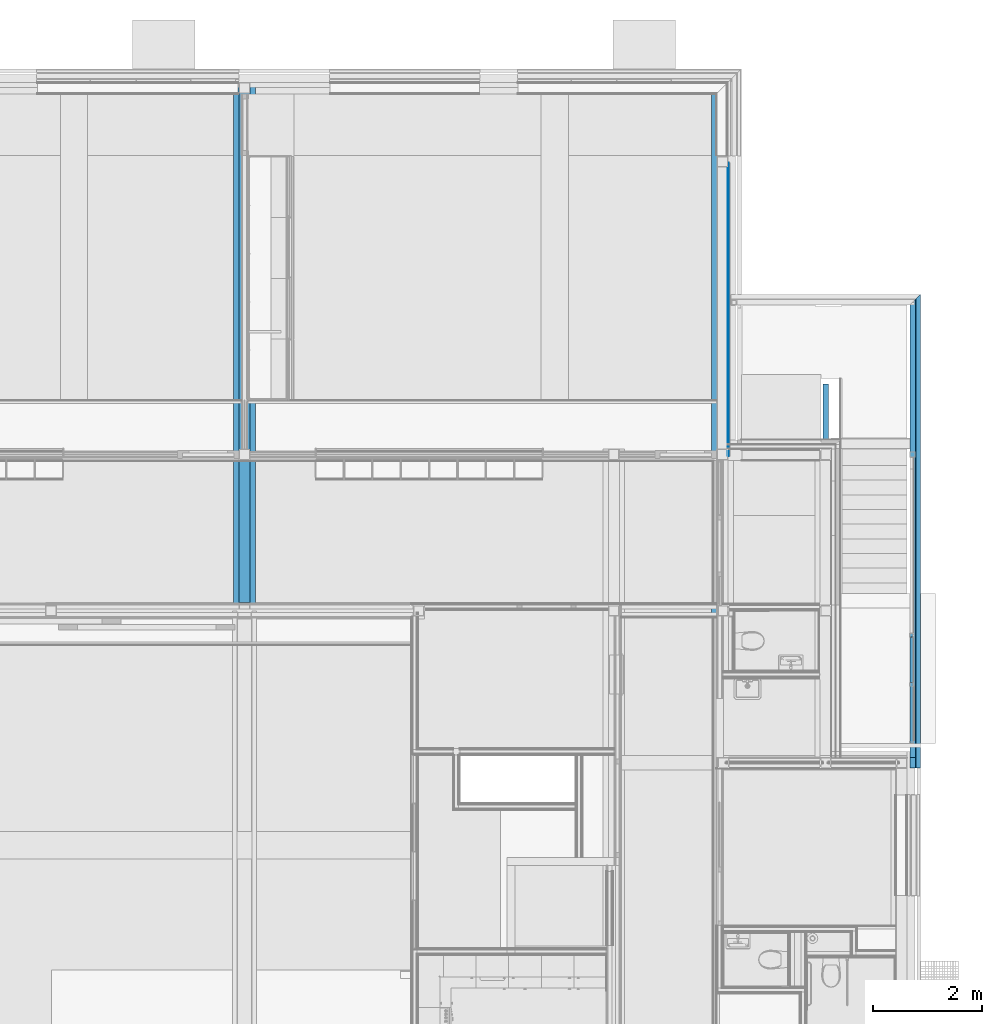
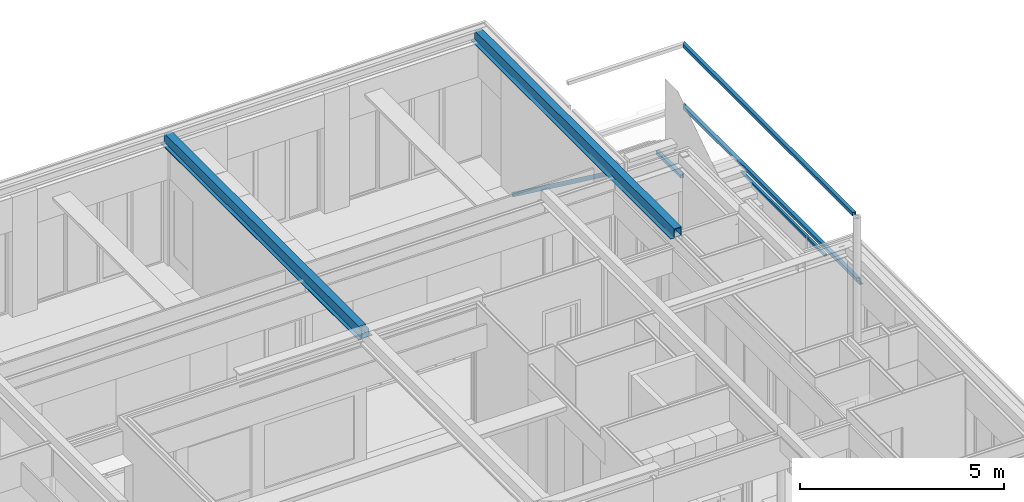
# One storey, part 15 of 165: 8 beams.
"""IFC2X3 building model written with IfcOpenShell, lengths in millimetres."""

from ifc_helpers import new_model, entity, si_unit, converted_unit, derived_unit, money_unit, direction, frame, origin_with_axes, place, context, subcontext, project, spatial, faceted_brep, material, type_object, element, save


model = new_model("IFC2X3")

# Units and contexts
model_context = context("Model", 3, precision=0.01, world=origin_with_axes(), true_north=direction((0.0, 1.0)))
body_context = subcontext(model_context, "Body", "Model", "MODEL_VIEW")
ifc_project = project(units=[si_unit("LENGTHUNIT", "METRE", prefix="MILLI"), si_unit("AREAUNIT", "SQUARE_METRE"), si_unit("VOLUMEUNIT", "CUBIC_METRE"), converted_unit("PLANEANGLEUNIT", "DEGREE", entity("IfcPlaneAngleMeasure", 0.0174532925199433), si_unit("PLANEANGLEUNIT", "RADIAN"), dimensions=[0, 0, 0, 0, 0, 0, 0]), money_unit("EUR"), converted_unit("TIMEUNIT", "Year", entity("IfcTimeMeasure", 31556926.0), si_unit("TIMEUNIT", "SECOND"), dimensions=[0, 0, 1, 0, 0, 0, 0]), si_unit("MASSUNIT", "GRAM", prefix="KILO"), si_unit("THERMODYNAMICTEMPERATUREUNIT", "DEGREE_CELSIUS"), si_unit("LUMINOUSINTENSITYUNIT", "LUMEN"), si_unit("ENERGYUNIT", "JOULE", prefix="MEGA"), derived_unit("THERMALCONDUCTANCEUNIT", [(si_unit("POWERUNIT", "WATT"), 1), (si_unit("LENGTHUNIT", "METRE"), -1), (si_unit("THERMODYNAMICTEMPERATUREUNIT", "KELVIN"), -1)]), derived_unit("SPECIFICHEATCAPACITYUNIT", [(si_unit("ENERGYUNIT", "JOULE"), 1), (si_unit("MASSUNIT", "GRAM", prefix="KILO"), -1), (si_unit("THERMODYNAMICTEMPERATUREUNIT", "KELVIN"), -1)]), derived_unit("MASSDENSITYUNIT", [(si_unit("MASSUNIT", "GRAM", prefix="KILO"), 1), (si_unit("VOLUMEUNIT", "CUBIC_METRE"), -1)])], contexts=[model_context])

# Site, building, storey
site_placement = place(None, origin_with_axes())
site = spatial("IfcSite", under=ifc_project, at=site_placement, Name="Site", CompositionType="ELEMENT")
building_placement = place(site_placement, origin_with_axes())
building = spatial("IfcBuilding", under=site, at=building_placement, Name="Naam gebouw", CompositionType="ELEMENT")
storey_placement = place(building_placement, origin_with_axes())
storey = spatial("IfcBuildingStorey", under=building, at=storey_placement, Name="Begane grond", CompositionType="ELEMENT", Elevation=0.0)

# Beams
ifc_material = material(Name="Metaal - Staal C")
beam_type_1 = type_object("IfcBeamType", Name="28 THQ enkele flens 01 315 x 277", PredefinedType="BEAM")
beam_1_placement = place(storey_placement, frame((26500.0, 29175.0, 3860.0), z_axis=(0.0, 0.0, 1.0), x_axis=(-1.0, 0.0, 0.0)))
element("IfcBeam", 1, at=beam_1_placement, inside=storey, type_object=beam_type_1, material=ifc_material, Name="h METAAL_Regenwaterafvoer-x", ObjectType="BEAM", context=body_context, shape_type="Brep", body=[
    faceted_brep([(-89.99999999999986, 6940.000152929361, -277.0000000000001), (89.99999999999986, 6940.000152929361, -277.0000000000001), (89.99999999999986, 6760.000152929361, -277.0000000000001), (-89.99999999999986, 6760.000152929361, -277.0000000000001), (-89.99999999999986, 6940.000152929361, -265.0000000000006), (89.99999999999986, 6940.000152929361, -265.0000000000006), (89.99999999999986, 6760.000152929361, -265.0000000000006), (-89.99999999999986, 6760.000152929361, -265.0000000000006)], [[[0, 1, 2, 3]], [[0, 4, 5, 1]], [[1, 5, 6, 2]], [[2, 6, 7, 3]], [[3, 7, 4, 0]], [[6, 5, 4, 7]]]),
    faceted_brep([(-90.00000195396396, 1550.000000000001, -277.0000000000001), (89.99999804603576, 1550.000000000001, -277.0000000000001), (89.99999804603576, 1370.000000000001, -277.0000000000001), (-90.00000195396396, 1370.000000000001, -277.0000000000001), (-90.00000195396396, 1550.000000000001, -265.0000000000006), (89.99999804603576, 1550.000000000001, -265.0000000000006), (89.99999804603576, 1370.000000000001, -265.0000000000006), (-90.00000195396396, 1370.000000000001, -265.0000000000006)], [[[0, 1, 2, 3]], [[0, 4, 5, 1]], [[1, 5, 6, 2]], [[2, 6, 7, 3]], [[3, 7, 4, 0]], [[6, 5, 4, 7]]]),
    faceted_brep([(-94.99999999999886, 1360.0, -260.0000000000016), (-94.99999999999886, 1560.000000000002, -260.0000000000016), (-94.99999999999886, 1560.000000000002, -265.0000000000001), (-95.00000000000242, 6750.00015292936, -265.0000000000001), (-94.99999999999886, 6750.00015292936, -260.0000000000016), (-94.99999999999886, 6950.000152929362, -260.0000000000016), (-95.00000000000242, 6950.000152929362, -265.0000000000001), (-95.00000000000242, 9624.999607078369, -265.0000000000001), (-94.99999999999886, 9624.999607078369, -260.0000000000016), (-94.99999999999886, 9634.99960707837, -260.0000000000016), (-95.00000000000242, 9634.99960707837, -265.0000000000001), (-95.00000000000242, 9814.99960707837, -265.0000000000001), (-94.99999999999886, 9814.99960707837, -260.0000000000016), (-95.00000000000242, 9824.99960707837, -260.0000000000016), (-95.00000000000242, 9825.00018878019, -20.00000000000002), (-94.99999999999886, 9.99999999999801, -20.00000000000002), (-94.99999999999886, 9.99999999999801, -246.0000000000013), (-94.99999999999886, 89.99999999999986, -246.0000000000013), (-94.99999999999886, 89.99999999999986, -260.0000000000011), (-94.99999999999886, 0.0, -260.0000000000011), (-94.99999999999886, 0.0, -265.0000000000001), (-94.99999999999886, 1360.0, -265.0000000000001), (-100.0000019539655, 1560.000000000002, -260.0000000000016), (-100.0000019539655, 1360.0, -260.0000000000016), (-100.0000019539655, 1560.000000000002, -277.0000000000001), (99.99999804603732, 1560.000000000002, -277.0000000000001), (99.99999804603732, 1560.000000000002, -260.0000000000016), (94.99999999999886, 1560.000000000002, -260.0000000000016), (94.99999999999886, 1560.000000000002, -265.0000000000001), (94.99999999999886, 6750.00015292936, -265.0000000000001), (100.0000000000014, 6750.00015292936, -277.0000000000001), (-100.0000000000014, 6750.00015292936, -277.0000000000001), (-100.0000000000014, 6750.00015292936, -260.0000000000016), (94.99999999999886, 6750.00015292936, -260.0000000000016), (100.0000000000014, 6750.00015292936, -260.0000000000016), (-100.0000000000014, 6775.425869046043, -260.0000000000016), (-100.0000000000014, 6950.000152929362, -260.0000000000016), (-100.0000000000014, 6950.000152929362, -277.0000000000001), (100.0000000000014, 6950.000152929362, -277.0000000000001), (100.0000000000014, 6950.000152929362, -260.0000000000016), (94.99999999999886, 6950.000152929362, -260.0000000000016), (94.99999999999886, 6950.000152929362, -265.0000000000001), (94.99999999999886, 9825.00018878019, -265.0000000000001), (80.0000000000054, 9824.99960707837, -265.0000000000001), (80.0000000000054, 9624.999607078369, -265.0000000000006), (80.0000000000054, 9624.999607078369, -277.0000000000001), (-115.9999999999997, 9624.999607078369, -277.0000000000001), (-115.9999999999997, 9624.999607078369, -265.0000000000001), (-101.0000000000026, 9624.999607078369, -265.0000000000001), (-100.9999999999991, 9624.999607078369, -260.0000000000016), (-100.9999999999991, 9634.99960707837, -260.0000000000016), (-101.0000000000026, 9634.99960707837, -265.0000000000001), (-109.9999999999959, 9634.99960707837, -265.0000000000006), (-109.9999999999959, 9634.99960707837, -277.0000000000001), (70.00000000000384, 9634.99960707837, -277.0000000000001), (70.00000000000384, 9634.99960707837, -265.0000000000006), (70.00000000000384, 9814.99960707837, -265.0000000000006), (-109.9999999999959, 9814.99960707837, -277.0000000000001), (-109.9999999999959, 9814.99960707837, -265.0000000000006), (-101.0000000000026, 9814.99960707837, -265.0000000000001), (-100.9999999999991, 9814.99960707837, -260.0000000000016), (70.00000000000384, 9814.99960707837, -277.0000000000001), (-101.0000000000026, 9824.99960707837, -260.0000000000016), (-101.0000000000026, 9825.00018878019, 0.0), (100.9999999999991, 9825.00018878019, 0.0), (100.9999999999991, 9825.00018878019, -265.0000000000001), (199.0000044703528, 9825.00018878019, -265.0000000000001), (199.0000044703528, 9825.00018878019, -277.0000000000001), (80.0000000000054, 9824.99960707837, -277.0000000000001), (94.99999999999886, 9825.00018878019, -20.00000000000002), (94.99999999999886, 9.99999999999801, -20.00000000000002), (-100.000000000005, 9.99999999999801, -14.00000000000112), (-100.000000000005, 9.99999999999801, -246.0000000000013), (94.99999999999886, 9.99999999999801, -246.0000000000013), (100.9999999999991, 9.99999999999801, -246.0000000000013), (100.9999999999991, 9.99999999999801, -14.00000000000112), (-100.000000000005, 89.99999999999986, -246.0000000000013), (-100.000000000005, 89.99999999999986, -260.0000000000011), (-100.000000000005, 0.0, -260.0000000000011), (94.99999999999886, 0.0, -265.0000000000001), (-100.000000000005, 0.0, 0.0), (-100.9999999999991, 0.0, 0.0), (-100.9999999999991, 0.0, -265.0000000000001), (-115.9999999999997, 0.0, -265.0000000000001), (-115.9999999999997, 0.0, -277.0000000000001), (199.0000044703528, 0.0, -277.0000000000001), (199.0000044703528, 0.0, -265.0000000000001), (100.9999999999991, 0.0, -265.0000000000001), (101.0000000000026, 0.0, -260.0000000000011), (94.99999999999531, 0.0, -260.0000000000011), (94.99999999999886, 1360.0, -265.0000000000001), (99.99999804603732, 1360.0, -260.0000000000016), (99.99999804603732, 1360.0, -277.0000000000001), (-100.0000019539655, 1360.0, -277.0000000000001), (94.99999999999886, 1360.0, -260.0000000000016), (-115.9999999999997, 1607.498526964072, -277.0000000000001), (-115.000000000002, 1607.498526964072, -277.0000000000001), (-115.000000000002, 1808.956029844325, -277.0000000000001), (-115.9999999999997, 1808.956029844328, -277.0000000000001), (-100.0000000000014, 6752.501625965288, -277.0000000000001), (-115.000000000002, 6752.501625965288, -277.0000000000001), (-115.000000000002, 6551.044123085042, -277.0000000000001), (-100.0000000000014, 6551.044123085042, -277.0000000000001), (94.99999999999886, 89.99999999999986, -260.0000000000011), (94.99999999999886, 89.99999999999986, -246.0000000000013), (-100.0000000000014, 6814.260605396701, -81.80576028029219), (-100.0000000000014, 6885.739700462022, -178.1942397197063), (-115.9999999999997, 1792.774211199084, -265.0000000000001), (-101.0000000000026, 6768.683444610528, -265.0000000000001), (-115.000000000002, 1792.774211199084, -265.0000000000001), (-115.000000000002, 1591.316708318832, -265.0000000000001), (-115.9999999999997, 1591.316708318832, -265.0000000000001), (-101.0000000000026, 6567.225941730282, -265.0000000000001), (-115.000000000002, 6567.225941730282, -265.0000000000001), (-115.000000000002, 6768.683444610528, -265.0000000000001), (-100.9999999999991, 6885.739700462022, -178.1942397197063), (-100.9999999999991, 6814.260605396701, -81.80576028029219), (-100.9999999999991, 1584.574283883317, 0.0), (-100.9999999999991, 1474.260452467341, -81.80576028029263), (-100.9999999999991, 1545.739547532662, -178.1942397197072), (-100.9999999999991, 1786.031786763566, 0.0), (-100.000000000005, 89.99999999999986, 0.0), (101.0000000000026, 89.99999999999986, 0.0), (-100.0000000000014, 1786.031786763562, 0.0), (-100.0000000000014, 1584.574283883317, 0.0), (100.9999999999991, 89.99999999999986, -246.0000000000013), (100.9999999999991, 89.99999999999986, -260.0000000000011), (100.9999999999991, 89.99999999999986, -14.00000000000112), (-100.000000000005, 89.99999999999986, -14.00000000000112), (-100.0000000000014, 1474.260452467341, -81.80576028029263), (-100.0000000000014, 1545.739547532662, -178.1942397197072)], [[[0, 1, 2, 3, 4, 5, 6, 7, 8, 9, 10, 11, 12, 13, 14, 15, 16, 17, 18, 19, 20, 21]], [[22, 1, 0, 23]], [[22, 24, 25, 26, 27, 28, 2, 1]], [[3, 2, 28, 29]], [[30, 31, 32, 4, 3, 29, 33, 34]], [[4, 32, 35, 36, 5]], [[36, 37, 38, 39, 40, 41, 6, 5]], [[7, 6, 41, 42, 43, 44]], [[45, 46, 47, 48, 49, 8, 7, 44]], [[8, 49, 50, 9]], [[50, 51, 52, 53, 54, 55, 10, 9]], [[55, 56, 11, 10]], [[57, 58, 59, 60, 12, 11, 56, 61]], [[12, 60, 62, 13]], [[14, 13, 62, 63, 64, 65, 66, 67, 68, 43, 42, 69]], [[14, 69, 70, 15]], [[71, 72, 16, 15, 70, 73, 74, 75]], [[72, 76, 17, 16]], [[76, 77, 18, 17]], [[18, 77, 78, 19]], [[79, 20, 19, 78, 80, 81, 82, 83, 84, 85, 86, 87, 88, 89]], [[79, 90, 21, 20]], [[91, 92, 93, 23, 0, 21, 90, 94]], [[23, 93, 24, 22]], [[46, 45, 68, 67, 85, 84, 95, 96, 97, 98], [38, 37, 99, 100, 101, 102, 31, 30], [92, 25, 24, 93]], [[26, 25, 92, 91]], [[91, 94, 27, 26]], [[27, 94, 90, 79, 89, 103, 104, 73, 70, 69, 42, 41, 40, 33, 29, 28]], [[35, 32, 31, 102, 105, 106]], [[34, 33, 40, 39]], [[39, 38, 30, 34]], [[36, 35, 99, 37]], [[45, 44, 43, 68]], [[107, 47, 46, 98]], [[108, 48, 47, 107, 109, 110, 111, 83, 82, 112, 113, 114]], [[50, 49, 48, 108, 115, 116, 112, 82, 81, 117, 118, 119, 120, 63, 62, 60, 59, 51]], [[58, 52, 51, 59]], [[53, 52, 58, 57]], [[57, 61, 54, 53]], [[61, 56, 55, 54]], [[81, 80, 121, 122, 64, 63, 120, 123, 124, 117]], [[74, 125, 126, 88, 87, 65, 64, 122, 127, 75]], [[66, 65, 87, 86]], [[67, 66, 86, 85]], [[71, 128, 121, 80, 78, 77, 76, 72]], [[125, 74, 73, 104]], [[128, 71, 75, 127]], [[111, 95, 84, 83]], [[88, 126, 103, 89]], [[95, 111, 110, 96]], [[110, 109, 97, 96]], [[109, 107, 98, 97]], [[100, 99, 35, 106, 115, 108, 114]], [[100, 114, 113, 101]], [[112, 116, 105, 102, 101, 113]], [[126, 125, 104, 103]], [[115, 106, 105, 116]], [[129, 118, 117, 124]], [[130, 119, 118, 129]], [[123, 120, 119, 130]], [[128, 127, 122, 121]], [[129, 124, 123, 130]]]),
])
beam_type_2 = type_object("IfcBeamType", Name="28 THQ 07 400 x 285", PredefinedType="BEAM")
beam_2_placement = place(storey_placement, frame((17699.99942456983, 29175.0, 3860.0), z_axis=(0.0, 0.0, 1.0), x_axis=(-1.0, 0.0, 0.0)))
element("IfcBeam", 2, at=beam_2_placement, inside=storey, type_object=beam_type_2, material=ifc_material, Name="h METAAL_Regenwaterafvoer-x", ObjectType="BEAM", context=body_context, shape_type="Brep", body=[
    faceted_brep([(-90.00000000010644, 190.0000000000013, -284.9999977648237), (89.99999999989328, 190.0000000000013, -284.9999977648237), (89.99999999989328, 10.00000000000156, -284.9999977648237), (-90.00000000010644, 10.00000000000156, -284.9999977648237), (-90.00000000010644, 190.0000000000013, -264.9999977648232), (89.99999999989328, 190.0000000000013, -264.9999977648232), (89.99999999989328, 10.00000000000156, -264.9999977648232), (-90.00000000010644, 10.00000000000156, -264.9999977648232)], [[[0, 1, 2, 3]], [[0, 4, 5, 1]], [[1, 5, 6, 2]], [[2, 6, 7, 3]], [[3, 7, 4, 0]], [[6, 5, 4, 7]]]),
    faceted_brep([(-90.00000000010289, 6940.000152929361, -284.9999977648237), (89.99999999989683, 6940.000152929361, -284.9999977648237), (89.99999999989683, 6760.000152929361, -284.9999977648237), (-90.00000000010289, 6760.000152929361, -284.9999977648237), (-90.00000000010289, 6940.000152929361, -264.9999977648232), (89.99999999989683, 6940.000152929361, -264.9999977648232), (89.99999999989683, 6760.000152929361, -264.9999977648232), (-90.00000000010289, 6760.000152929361, -264.9999977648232)], [[[0, 1, 2, 3]], [[0, 4, 5, 1]], [[1, 5, 6, 2]], [[2, 6, 7, 3]], [[3, 7, 4, 0]], [[6, 5, 4, 7]]]),
    faceted_brep([(-95.00000000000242, 6750.00015292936, -260.0000000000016), (-95.00000000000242, 6950.000152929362, -260.0000000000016), (-95.00000000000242, 6950.000152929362, -264.9999977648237), (-95.00000000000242, 9714.500188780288, -264.9999977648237), (-95.00000000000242, 9714.500188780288, -40.00000000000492), (-95.00000000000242, 9571.000188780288, -40.00000000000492), (-94.99999999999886, 9.99999999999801, -40.00000000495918), (-94.99999999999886, 9.99999999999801, -246.0000000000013), (-94.99999999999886, 89.99999999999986, -246.0000000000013), (-94.99999999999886, 89.99999999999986, -260.0000000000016), (-95.00000000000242, 200.0000000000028, -260.0000000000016), (-94.99999999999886, 200.0000000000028, -264.9999977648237), (-95.00000000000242, 6750.00015292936, -264.9999977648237), (-100.0000000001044, 6950.000152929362, -260.0000000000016), (-100.0000000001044, 6750.00015292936, -260.0000000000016), (-100.0000000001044, 6950.000152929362, -284.9999977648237), (99.99999999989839, 6950.000152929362, -284.9999977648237), (99.99999999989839, 6950.000152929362, -260.0000000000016), (94.99999999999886, 6950.000152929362, -260.0000000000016), (94.99999999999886, 6950.000152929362, -264.9999977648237), (94.99999999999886, 9714.500188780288, -264.9999977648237), (199.9999999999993, 9714.500188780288, -264.9999977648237), (199.9999999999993, 9714.500188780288, -284.9999977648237), (-199.9999999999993, 9714.500188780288, -284.9999977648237), (-199.9999999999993, 9714.500188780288, -264.9999977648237), (-103.0000000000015, 9714.500188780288, -264.9999977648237), (-103.0000000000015, 9714.500188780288, -40.00000000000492), (94.99999999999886, 9714.500188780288, -40.00000000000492), (103.0000000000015, 9714.500188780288, -40.00000000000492), (102.999999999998, 9714.500188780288, -264.9999977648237), (-103.0000000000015, 9571.000188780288, -40.00000000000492), (94.99999999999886, 9.99999999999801, -40.00000000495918), (94.99999999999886, 9571.000188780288, -40.00000000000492), (94.99999999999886, 9.99999999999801, -246.0000000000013), (103.0000000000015, 9.99999999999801, -246.0000000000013), (103.0000000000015, 9.99999999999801, -14.00000000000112), (-103.0000000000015, 9.99999999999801, -14.00000000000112), (-103.0000000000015, 9.99999999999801, -246.0000000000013), (-103.0000000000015, 89.99999999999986, -246.0000000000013), (-103.0000000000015, 89.99999999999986, -260.0000000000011), (-100.000000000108, 89.99999999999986, -260.0000000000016), (-100.000000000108, 200.0000000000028, -260.0000000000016), (-100.000000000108, 200.0000000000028, -284.9999977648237), (99.99999999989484, 200.0000000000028, -284.9999977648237), (99.99999999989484, 200.0000000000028, -260.0000000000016), (94.99999999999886, 200.0000000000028, -260.0000000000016), (94.99999999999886, 200.0000000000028, -264.9999977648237), (94.99999999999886, 6750.00015292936, -264.9999977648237), (99.99999999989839, 6750.00015292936, -260.0000000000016), (99.99999999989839, 6750.00015292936, -284.9999977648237), (-100.0000000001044, 6750.00015292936, -284.9999977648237), (94.99999999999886, 6750.00015292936, -260.0000000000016), (-100.000000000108, 0.0, -284.9999977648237), (-199.9999999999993, 0.0, -284.9999977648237), (199.9999999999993, 0.0, -284.9999977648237), (99.99999999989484, 0.0, -284.9999977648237), (94.99999999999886, 89.99999999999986, -260.0000000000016), (94.99999999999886, 89.99999999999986, -246.0000000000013), (199.9999999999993, 0.0, -264.9999977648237), (-199.9999999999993, 0.0, -264.9999977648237), (-103.0000000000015, 0.0, -264.9999977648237), (-103.0000000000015, 9571.000188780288, 0.0), (-103.0000000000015, 0.0, -260.0000000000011), (-103.0000000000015, 89.99999999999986, -14.00000000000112), (-103.0000000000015, 89.99999999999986, 0.0), (103.0000000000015, 9571.000188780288, -40.00000000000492), (102.999999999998, 9571.000188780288, 0.0), (103.0000000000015, 89.99999999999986, 0.0), (103.0000000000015, 89.99999999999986, -14.00000000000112), (103.0000000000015, 89.99999999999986, -246.0000000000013), (103.0000000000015, 89.99999999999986, -260.0000000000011), (103.0000000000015, 0.0, -260.0000000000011), (103.0000000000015, 0.0, -264.9999977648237), (-100.000000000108, 0.0, -260.0000000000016), (99.99999999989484, 0.0, -260.0000000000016), (99.99999999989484, 89.99999999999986, -260.0000000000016)], [[[0, 1, 2, 3, 4, 5, 6, 7, 8, 9, 10, 11, 12]], [[13, 1, 0, 14]], [[13, 15, 16, 17, 18, 19, 2, 1]], [[3, 2, 19, 20]], [[21, 22, 23, 24, 25, 26, 4, 3, 20, 27, 28, 29]], [[5, 4, 26, 30]], [[31, 6, 5, 32]], [[31, 33, 34, 35, 36, 37, 7, 6]], [[37, 38, 8, 7]], [[39, 40, 9, 8, 38]], [[10, 9, 40, 41]], [[41, 42, 43, 44, 45, 46, 11, 10]], [[46, 47, 12, 11]], [[48, 49, 50, 14, 0, 12, 47, 51]], [[14, 50, 15, 13]], [[43, 42, 52, 53, 23, 22, 54, 55], [49, 16, 15, 50]], [[17, 16, 49, 48]], [[48, 51, 18, 17]], [[18, 51, 47, 46, 45, 56, 57, 33, 31, 32, 27, 20, 19]], [[58, 54, 22, 21]], [[53, 59, 24, 23]], [[59, 60, 25, 24]], [[61, 30, 26, 25, 60, 62, 39, 38, 37, 36, 63, 64]], [[65, 28, 27, 32]], [[29, 28, 65, 66, 67, 68, 35, 34, 69, 70, 71, 72]], [[72, 58, 21, 29]], [[32, 5, 30, 61, 66, 65]], [[33, 57, 69, 34]], [[63, 36, 35, 68]], [[62, 73, 40, 39]], [[41, 40, 73, 52, 42]], [[43, 55, 74, 75, 44]], [[44, 75, 56, 45]], [[53, 52, 73, 62, 60, 59]], [[71, 74, 55, 54, 58, 72]], [[57, 56, 75, 70, 69]], [[67, 64, 63, 68]], [[64, 67, 66, 61]], [[70, 75, 74, 71]]]),
])
beam_type_3 = type_object("IfcBeamType", Name="100X100X5 100 x 100", PredefinedType="BEAM")
beam_3_placement = place(storey_placement, frame((29999.99999999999, 16549.99778166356, 2790.000013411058), z_axis=(0.0, 0.0, 1.0), x_axis=(1.0, 0.0, 0.0)))
element("IfcBeam", 3, at=beam_3_placement, inside=storey, type_object=beam_type_3, material=ifc_material, Name="h METAAL_Regenwaterafvoer-x", ObjectType="BEAM", context=body_context, shape_type="Brep", body=[
    faceted_brep([(30.00000000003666, 8526.888814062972, 44.99999999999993), (30.00000000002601, 8571.82934664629, 44.99999999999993), (30.00000000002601, 8575.002073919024, 49.99999999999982), (30.00000000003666, 8519.009157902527, 49.99999999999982), (-29.99999999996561, 8526.888814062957, 44.99999999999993), (-29.99999999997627, 8571.829346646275, 44.99999999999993), (-29.99999999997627, 8575.00207391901, 49.99999999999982), (-29.99999999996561, 8519.009157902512, 49.99999999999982)], [[[0, 1, 2, 3]], [[4, 5, 1, 0]], [[5, 6, 2, 1]], [[3, 2, 6, 7]], [[3, 7, 4, 0]], [[7, 6, 5, 4]]]),
    faceted_brep([(45.00000000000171, 8624.978438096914, 44.99999999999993), (35.00000000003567, 8624.978438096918, 44.99999999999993), (35.00000000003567, 8624.978438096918, 49.99999999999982), (50.00000000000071, 8624.978438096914, 49.99999999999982), (50.00000000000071, 8624.978438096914, -49.99999999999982), (35.00000000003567, 8624.978438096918, -49.99999999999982), (35.00000000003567, 8624.978438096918, -44.99999999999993), (45.00000000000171, 8624.978438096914, -44.99999999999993), (35.00000000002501, 8571.829346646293, 44.99999999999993), (35.00000000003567, 8619.978438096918, 44.99999999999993), (45.00000000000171, 0.0, 44.99999999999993), (-45.00000000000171, 0.0, 44.99999999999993), (-45.00000000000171, 8524.978438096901, 44.99999999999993), (-34.99999999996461, 8524.978438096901, 44.99999999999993), (-34.99999999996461, 8517.556666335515, 44.99999999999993), (35.00000000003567, 8517.55666633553, 44.99999999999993), (35.00000000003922, 8509.677010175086, 49.99999999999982), (35.00000000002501, 8575.002073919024, 49.99999999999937), (-34.99999999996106, 8509.677010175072, 49.99999999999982), (-34.99999999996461, 8524.978438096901, 49.99999999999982), (-49.99999999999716, 8524.978438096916, 49.99999999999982), (-50.00000000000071, 0.0, 49.99999999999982), (50.00000000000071, 0.0, 49.99999999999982), (50.00000000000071, 0.0, -49.99999999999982), (-49.99999999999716, 8524.978438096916, -49.99999999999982), (35.00000000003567, 8524.978438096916, -49.99999999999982), (-50.00000000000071, 0.0, -49.99999999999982), (35.00000000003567, 8529.978438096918, -44.99999999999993), (35.00000000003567, 8619.978438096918, -44.99999999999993), (35.00000000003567, 8524.978438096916, -44.99999999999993), (-45.00000000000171, 8524.978438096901, -44.99999999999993), (-45.00000000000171, 0.0, -44.99999999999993), (45.00000000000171, 0.0, -44.99999999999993)], [[[0, 1, 2, 3, 4, 5, 6, 7]], [[8, 9, 1, 0, 10, 11, 12, 13, 14, 15]], [[16, 17, 2, 1, 9, 8, 15]], [[3, 2, 17, 16, 18, 19, 20, 21, 22]], [[4, 3, 22, 23]], [[24, 25, 5, 4, 23, 26]], [[27, 28, 6, 5, 25, 29]], [[27, 29, 30, 31, 32, 7, 6, 28]], [[0, 7, 32, 10]], [[26, 23, 22, 21], [31, 11, 10, 32]], [[31, 30, 12, 11]], [[12, 30, 29, 25, 24, 20, 19, 13]], [[14, 13, 19, 18]], [[18, 16, 15, 14]], [[21, 20, 24, 26]]]),
])
beam_4_placement = place(storey_placement, frame((29999.99999999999, 16749.99778166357, 4635.000000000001), z_axis=(0.0, 0.0, 1.0), x_axis=(1.0, 0.0, 0.0)))
element("IfcBeam", 4, at=beam_4_placement, inside=storey, type_object=beam_type_3, material=ifc_material, Name="h METAAL_Regenwaterafvoer-x", ObjectType="BEAM", context=body_context, shape_type="Brep", body=[
    faceted_brep([(-50.00000000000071, 0.0, -49.99999999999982), (-50.00000000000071, 8324.97843809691, -49.99999999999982), (50.00000000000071, 8424.978438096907, -49.99999999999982), (50.00000000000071, 0.0, -49.99999999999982), (-50.00000000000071, 0.0, 49.99999999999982), (-50.00000000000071, 8324.97843809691, 49.99999999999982), (50.00000000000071, 8424.978438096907, 49.99999999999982), (-45.00000000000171, 8329.978438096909, 44.99999999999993), (-45.00000000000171, 8329.978438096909, -44.99999999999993), (45.00000000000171, 8419.978438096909, -44.99999999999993), (45.00000000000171, 8419.978438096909, 44.99999999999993), (50.00000000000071, 0.0, 49.99999999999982), (45.00000000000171, 0.0, -44.99999999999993), (-45.00000000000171, 0.0, -44.99999999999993), (-45.00000000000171, 0.0, 44.99999999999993), (45.00000000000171, 0.0, 44.99999999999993)], [[[0, 1, 2, 3]], [[4, 5, 1, 0]], [[2, 1, 5, 6], [7, 8, 9, 10]], [[3, 2, 6, 11]], [[4, 0, 3, 11], [12, 13, 14, 15]], [[11, 6, 5, 4]], [[13, 8, 7, 14]], [[12, 9, 8, 13]], [[15, 10, 9, 12]], [[14, 7, 10, 15]]]),
])
beam_5_placement = place(storey_placement, frame((28399.99998302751, 23624.97621406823, 2880.00006252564), z_axis=(0.0, 0.0, 1.0), x_axis=(-1.0, 0.0, 0.0)))
element("IfcBeam", 5, at=beam_5_placement, inside=storey, type_object=beam_type_3, material=ifc_material, Name="h METAAL_Regenwaterafvoer-x", ObjectType="BEAM", context=body_context, shape_type="Brep", body=[
    faceted_brep([(-50.00000000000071, 0.0, -49.99999999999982), (-50.00000000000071, 1199.999999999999, -49.99999999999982), (50.00000000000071, 1199.999999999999, -49.99999999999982), (50.00000000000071, 0.0, -49.99999999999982), (-50.00000000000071, 0.0, 49.99999999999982), (-50.00000000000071, 1199.999999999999, 49.99999999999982), (50.00000000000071, 1199.999999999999, 49.99999999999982), (-45.00000000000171, 1199.999999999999, 44.99999999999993), (-45.00000000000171, 1199.999999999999, -44.99999999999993), (44.99999999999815, 1199.999999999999, -44.99999999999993), (44.99999999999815, 1199.999999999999, 44.99999999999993), (50.00000000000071, 0.0, 49.99999999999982), (45.00000000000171, 0.0, -44.99999999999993), (-45.00000000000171, 0.0, -44.99999999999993), (-45.00000000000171, 0.0, 44.99999999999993), (45.00000000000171, 0.0, 44.99999999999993)], [[[0, 1, 2, 3]], [[4, 5, 1, 0]], [[2, 1, 5, 6], [7, 8, 9, 10]], [[3, 2, 6, 11]], [[4, 0, 3, 11], [12, 13, 14, 15]], [[11, 6, 5, 4]], [[13, 8, 7, 14]], [[12, 9, 8, 13]], [[15, 10, 9, 12]], [[14, 7, 10, 15]]]),
])
beam_type_4 = type_object("IfcBeamType", Name="70X70X5  70 x 70", PredefinedType="BEAM")
beam_6_placement = place(storey_placement, frame((29984.99999993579, 18124.99777215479, 2560.012449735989), z_axis=(0.0, 0.0, 1.0), x_axis=(1.0, 0.0, 0.0)))
element("IfcBeam", 6, at=beam_6_placement, inside=storey, type_object=beam_type_4, material=ifc_material, Name="h METAAL_Regenwaterafvoer-x", ObjectType="BEAM", context=body_context, shape_type="Brep", body=[
    faceted_brep([(-30.00000000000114, 0.0, 29.9999999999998), (-30.00000000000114, 834.9999992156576, 29.9999999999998), (30.00000000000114, 834.9999992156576, 29.9999999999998), (30.00000000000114, 0.0, 29.9999999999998), (-30.00000000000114, 0.0, -29.9999999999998), (-30.00000000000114, 834.9999992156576, -29.9999999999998), (-34.99999993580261, 834.9999992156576, -35.00000000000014), (-34.99999993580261, 834.9999992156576, 35.00000000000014), (35.00000006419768, 834.9999992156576, 34.99999999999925), (35.00000006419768, 834.9999992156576, -35.00000000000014), (30.00000000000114, 834.9999992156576, -29.9999999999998), (30.00000000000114, 0.0, -29.9999999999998), (35.00000000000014, 0.0, 35.00000000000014), (-35.00000000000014, 0.0, 35.00000000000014), (-35.00000000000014, 0.0, -35.00000000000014), (35.00000000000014, 0.0, -35.00000000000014)], [[[0, 1, 2, 3]], [[4, 5, 1, 0]], [[6, 7, 8, 9], [5, 10, 2, 1]], [[3, 2, 10, 11]], [[12, 13, 14, 15], [3, 11, 4, 0]], [[11, 10, 5, 4]], [[13, 7, 6, 14]], [[12, 8, 7, 13]], [[15, 9, 8, 12]], [[14, 6, 9, 15]]]),
    faceted_brep([(30.00000006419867, 839.9999992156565, -35.00000000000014), (-29.9999999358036, 839.9999992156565, -35.00000000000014), (-29.9999999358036, 899.9999992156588, -35.00000000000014), (30.00000006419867, 899.9999992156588, -35.00000000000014), (30.00000006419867, 839.9999992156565, -29.99999999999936), (-29.9999999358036, 839.9999992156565, -29.9999999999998), (-29.9999999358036, 899.9999992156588, -29.99999999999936), (30.00000006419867, 899.9999992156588, -29.9999999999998)], [[[0, 1, 2, 3]], [[0, 4, 5, 1]], [[1, 5, 6, 2]], [[2, 6, 7, 3]], [[3, 7, 4, 0]], [[6, 5, 4, 7]]]),
    faceted_brep([(30.00000006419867, 839.9999992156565, 29.9999999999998), (-29.9999999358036, 839.9999992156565, 29.9999999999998), (-29.9999999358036, 899.9999992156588, 29.9999999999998), (30.00000006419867, 899.9999992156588, 29.9999999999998), (30.00000006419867, 839.9999992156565, 35.00000000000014), (-29.9999999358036, 839.9999992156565, 35.00000000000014), (-29.9999999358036, 899.9999992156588, 35.00000000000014), (30.00000006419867, 899.9999992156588, 35.00000000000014)], [[[0, 1, 2, 3]], [[0, 4, 5, 1]], [[1, 5, 6, 2]], [[2, 6, 7, 3]], [[3, 7, 4, 0]], [[6, 5, 4, 7]]]),
    faceted_brep([(30.00000000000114, 3934.193965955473, -29.9999999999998), (30.00000000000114, 904.9999992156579, -29.9999999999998), (30.00000000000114, 904.9999992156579, 29.9999999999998), (30.00000000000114, 4126.731937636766, 29.9999999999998), (-30.00000000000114, 3934.193965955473, -29.9999999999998), (-30.00000000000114, 904.9999992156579, -29.9999999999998), (-34.99999993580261, 904.9999992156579, -35.00000000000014), (35.00000006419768, 904.9999992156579, -35.00000000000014), (35.00000006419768, 904.9999992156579, 35.00000000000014), (-34.99999993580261, 904.9999992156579, 35.00000000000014), (-30.00000000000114, 904.9999992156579, 29.9999999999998), (-30.00000000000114, 4126.731937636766, 29.9999999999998), (35.00000000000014, 4142.776768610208, 35.00000000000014), (35.00000000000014, 3918.149134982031, -35.00000000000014), (-35.00000000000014, 3918.149134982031, -35.00000000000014), (-35.00000000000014, 4142.776768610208, 35.00000000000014)], [[[0, 1, 2, 3]], [[4, 5, 1, 0]], [[6, 7, 8, 9], [5, 10, 2, 1]], [[3, 2, 10, 11]], [[12, 13, 14, 15], [3, 11, 4, 0]], [[11, 10, 5, 4]], [[13, 7, 6, 14]], [[12, 8, 7, 13]], [[15, 9, 8, 12]], [[14, 6, 9, 15]]]),
])
beam_type_5 = type_object("IfcBeamType", Name="L200X100X10 100 x 200", PredefinedType="BEAM")
beam_7_placement = place(storey_placement, frame((30099.99999999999, 16549.99778166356, 2700.000008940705), z_axis=(0.0, 0.0, 1.0), x_axis=(1.0, 0.0, 0.0)))
element("IfcBeam", 7, at=beam_7_placement, inside=storey, type_object=beam_type_5, material=ifc_material, Name="h METAAL_Regenwaterafvoer-x", ObjectType="BEAM", context=body_context, shape_type="Brep", body=[
    faceted_brep([(50.00000000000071, 0.0, -100.0000000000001), (-50.00000000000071, 0.0, -100.0000000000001), (-50.00000000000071, 8624.978438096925, -100.0000000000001), (50.00000000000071, 8724.978438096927, -100.0000000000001), (-39.99999999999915, 0.0, 100.0000000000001), (-50.00000000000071, 0.0, 100.0000000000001), (50.00000000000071, 0.0, -89.99999999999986), (-39.99999999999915, 0.0, -89.99999999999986), (-50.00000000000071, 8624.978438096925, 100.0000000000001), (50.00000000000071, 8724.978438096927, -89.99999999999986), (-39.99999999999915, 8634.978438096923, 100.0000000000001), (-39.99999999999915, 8634.978438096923, -89.99999999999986)], [[[0, 1, 2, 3]], [[4, 5, 1, 0, 6, 7]], [[1, 5, 8, 2]], [[9, 3, 2, 8, 10, 11]], [[6, 0, 3, 9]], [[5, 4, 10, 8]], [[7, 6, 9, 11]], [[4, 7, 11, 10]]]),
])
beam_type_6 = type_object("IfcBeamType", Name="Metaal - Staal C 15 x 120", PredefinedType="BEAM")
beam_8_placement = place(storey_placement, frame((26600.0, 27665.0, -230.0), z_axis=(0.0, 0.0, 1.0), x_axis=(-1.0, 0.0, 0.0)))
element("IfcBeam", 8, at=beam_8_placement, inside=storey, type_object=beam_type_6, material=ifc_material, Name="h METAAL_Regenwaterafvoer-x", ObjectType="BEAM", context=body_context, shape_type="Brep", body=[
    faceted_brep([(-15.00000000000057, -35.73954753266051, 48.19423971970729), (0.0, -35.73954753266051, 48.19423971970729), (0.0, 5304.260605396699, 4008.194239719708), (-15.00000000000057, 5304.260605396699, 4008.194239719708), (-15.00000000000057, 35.73954753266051, -48.19423971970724), (0.0, 35.73954753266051, -48.19423971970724), (0.0, 5375.73970046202, 3911.805760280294), (-15.00000000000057, 5375.73970046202, 3911.805760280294)], [[[0, 1, 2, 3]], [[4, 5, 1, 0]], [[1, 5, 6, 2]], [[7, 3, 2, 6]], [[4, 0, 3, 7]], [[5, 4, 7, 6]]]),
])

save(model, "model.ifc")
